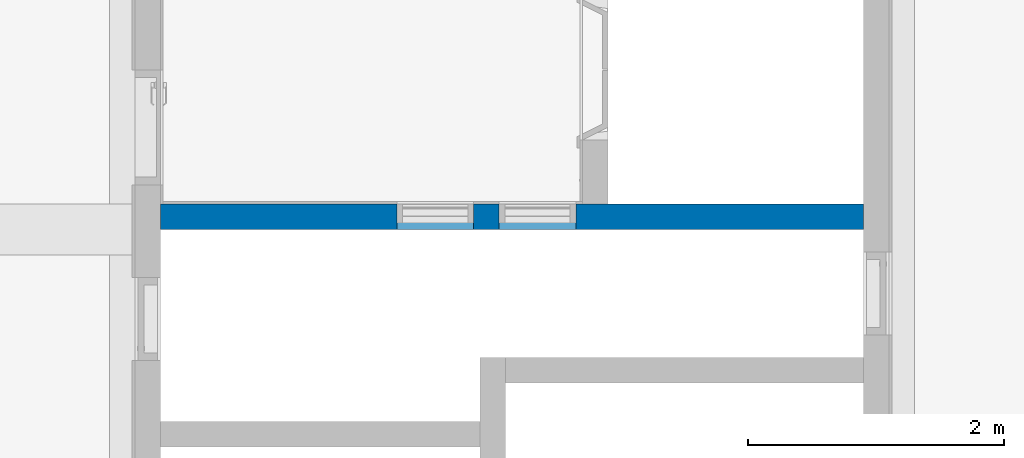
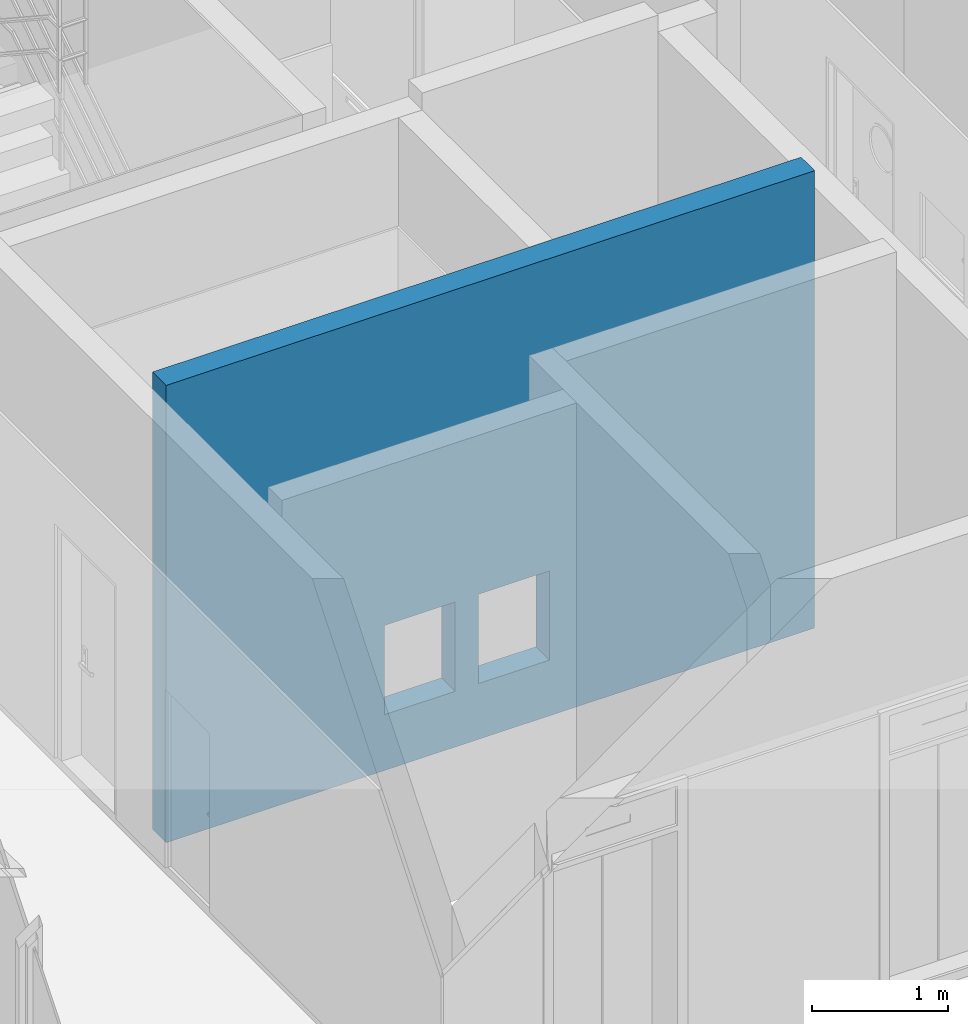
# One storey, part 53 of 81: 1 wall, 2 openings.
"""IFC2X3 building model written with IfcOpenShell, lengths in millimetres."""

from ifc_helpers import new_model, entity, si_unit, converted_unit, derived_unit, direction, frame, frame_2d, origin, place, context, subcontext, project, spatial, rectangle, extrude, material, layer, layer_set, layer_usage, type_object, element, save


model = new_model("IFC2X3")

# Units and contexts
model_context = context("Model", 3, precision=0.01, world=origin(), true_north=direction((6.123031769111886e-17, 1.0)))
body_context = subcontext(model_context, "Body", "Model", "MODEL_VIEW")
ifc_project = project(units=[si_unit("LENGTHUNIT", "METRE", prefix="MILLI"), si_unit("AREAUNIT", "SQUARE_METRE"), si_unit("VOLUMEUNIT", "CUBIC_METRE"), converted_unit("PLANEANGLEUNIT", "DEGREE", entity("IfcRatioMeasure", 0.017453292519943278), si_unit("PLANEANGLEUNIT", "RADIAN"), dimensions=[0, 0, 0, 0, 0, 0, 0]), si_unit("MASSUNIT", "GRAM", prefix="KILO"), derived_unit("MASSDENSITYUNIT", [(si_unit("MASSUNIT", "GRAM", prefix="KILO"), 1), (si_unit("LENGTHUNIT", "METRE"), -3)]), derived_unit("MOMENTOFINERTIAUNIT", [(si_unit("LENGTHUNIT", "METRE"), 4)]), si_unit("TIMEUNIT", "SECOND"), si_unit("FREQUENCYUNIT", "HERTZ"), si_unit("THERMODYNAMICTEMPERATUREUNIT", "DEGREE_CELSIUS"), derived_unit("THERMALTRANSMITTANCEUNIT", [(si_unit("MASSUNIT", "GRAM", prefix="KILO"), 1), (si_unit("THERMODYNAMICTEMPERATUREUNIT", "KELVIN"), -1), (si_unit("TIMEUNIT", "SECOND"), -3)]), derived_unit("VOLUMETRICFLOWRATEUNIT", [(si_unit("LENGTHUNIT", "METRE"), 3), (si_unit("TIMEUNIT", "SECOND"), -1)]), derived_unit("MASSFLOWRATEUNIT", [(si_unit("MASSUNIT", "GRAM", prefix="KILO"), 1), (si_unit("TIMEUNIT", "SECOND"), -1)]), derived_unit("ROTATIONALFREQUENCYUNIT", [(si_unit("TIMEUNIT", "SECOND"), -1)]), si_unit("ELECTRICCURRENTUNIT", "AMPERE"), si_unit("ELECTRICVOLTAGEUNIT", "VOLT"), si_unit("POWERUNIT", "WATT"), si_unit("FORCEUNIT", "NEWTON", prefix="KILO"), si_unit("ILLUMINANCEUNIT", "LUX"), si_unit("LUMINOUSFLUXUNIT", "LUMEN"), si_unit("LUMINOUSINTENSITYUNIT", "CANDELA"), derived_unit("USERDEFINED", [(si_unit("MASSUNIT", "GRAM", prefix="KILO"), -1), (si_unit("LENGTHUNIT", "METRE"), -2), (si_unit("TIMEUNIT", "SECOND"), 3), (si_unit("LUMINOUSFLUXUNIT", "LUMEN"), 1)]), derived_unit("SOUNDPOWERUNIT", [(si_unit("MASSUNIT", "GRAM", prefix="KILO"), 1), (si_unit("LENGTHUNIT", "METRE"), 2), (si_unit("TIMEUNIT", "SECOND"), -3)]), derived_unit("SOUNDPRESSUREUNIT", [(si_unit("MASSUNIT", "GRAM", prefix="KILO"), 1), (si_unit("LENGTHUNIT", "METRE"), -1), (si_unit("TIMEUNIT", "SECOND"), -2)]), derived_unit("LINEARVELOCITYUNIT", [(si_unit("LENGTHUNIT", "METRE"), 1), (si_unit("TIMEUNIT", "SECOND"), -1)]), si_unit("PRESSUREUNIT", "PASCAL"), derived_unit("USERDEFINED", [(si_unit("LENGTHUNIT", "METRE"), -2), (si_unit("MASSUNIT", "GRAM", prefix="KILO"), 1), (si_unit("TIMEUNIT", "SECOND"), -2)]), derived_unit("LINEARFORCEUNIT", [(si_unit("MASSUNIT", "GRAM", prefix="KILO"), 1), (si_unit("LENGTHUNIT", "METRE"), 1), (si_unit("TIMEUNIT", "SECOND"), -2), (si_unit("LENGTHUNIT", "METRE"), -1)]), derived_unit("PLANARFORCEUNIT", [(si_unit("MASSUNIT", "GRAM", prefix="KILO"), 1), (si_unit("LENGTHUNIT", "METRE"), 1), (si_unit("TIMEUNIT", "SECOND"), -2), (si_unit("LENGTHUNIT", "METRE"), -2)])], contexts=[model_context])

# Site, building, storey
site_placement = place(None, frame((-14167.972527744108, -657.2125860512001, 0.0)))
site = spatial("IfcSite", under=ifc_project, at=site_placement, Name="Default", CompositionType="ELEMENT")
building_placement = place(site_placement, origin())
building = spatial("IfcBuilding", under=site, at=building_placement, Name="Sample Building", CompositionType="ELEMENT")
storey_placement = place(building_placement, frame((0.0, 0.0, 13400.0)))
storey = spatial("IfcBuildingStorey", under=building, at=storey_placement, Name="지상 4층", CompositionType="ELEMENT", Elevation=13400.00000000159)

# Wall, openings
ifc_material = material(Name="KBIMS-콘크리트")
ifc_layer = layer(ifc_material, 200.0)
ifc_layer_set = layer_set([ifc_layer], Name="기본 벽:WA111-철근콘크리트구조 벽 200mm_CW1")
ifc_layer_usage = layer_usage(ifc_layer_set, "AXIS2", "NEGATIVE", 100.0)
wall_type = type_object("IfcWallType", Name="기본 벽:WA111-철근콘크리트구조 벽 200mm_CW1", PredefinedType="STANDARD", material=ifc_layer_set)
wall_placement = place(storey_placement, frame((30267.963761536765, 20057.212307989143, -2.3000097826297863e-09)))
wall = element("IfcWallStandardCase", 1, at=wall_placement, inside=storey, type_object=wall_type, material=ifc_layer_usage, Name="기본 벽:WA111-철근콘크리트구조 벽 200mm_CW1", ObjectType="기본 벽:WA111-철근콘크리트구조 벽 200mm_CW1", context=body_context, shape_type="SweptSolid", body=[
    extrude(rectangle(XDim=5500.008729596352, YDim=199.99999999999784, at=frame_2d((2750.004364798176, -1.2079226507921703e-13), x_axis=(-1.0, 0.0))), origin(), (0.0, 0.0, 1.0), 4100.000000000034),
])
opening_1_placement = place(wall_placement, frame((1850.0085491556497, -100.0, 500.0)))
element("IfcOpeningElement", 2, at=opening_1_placement, cuts=wall, Name="WD733-그릴창(알루미늄):WD733-그릴창(알루미늄)_600x800mm:1", ObjectType="Opening", context=body_context, shape_type="SweptSolid", body=[
    extrude(rectangle(XDim=800.0000000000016, YDim=600.0000000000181, at=frame_2d((400.00000000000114, 300.0000000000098), x_axis=(-1.0, 0.0))), frame((0.0, 0.0, 0.0), z_axis=(0.0, 1.0, 0.0), x_axis=(0.0, 0.0, 1.0)), (0.0, 0.0, 1.0), 200.0),
])
opening_2_placement = place(wall_placement, frame((2650.0088198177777, -100.0, 500.0)))
element("IfcOpeningElement", 3, at=opening_2_placement, cuts=wall, Name="WD733-그릴창(알루미늄):WD733-그릴창(알루미늄)_600x800mm:1", ObjectType="Opening", context=body_context, shape_type="SweptSolid", body=[
    extrude(rectangle(XDim=800.0000000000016, YDim=600.0000000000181, at=frame_2d((400.00000000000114, 300.0000000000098), x_axis=(-1.0, 0.0))), frame((0.0, 0.0, 0.0), z_axis=(0.0, 1.0, 0.0), x_axis=(0.0, 0.0, 1.0)), (0.0, 0.0, 1.0), 200.0),
])

save(model, "model.ifc")
